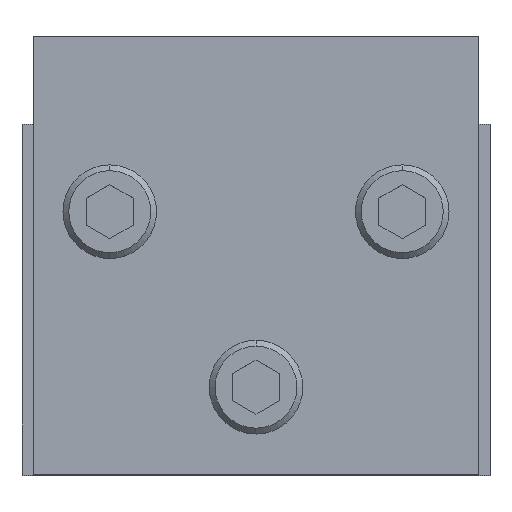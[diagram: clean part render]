
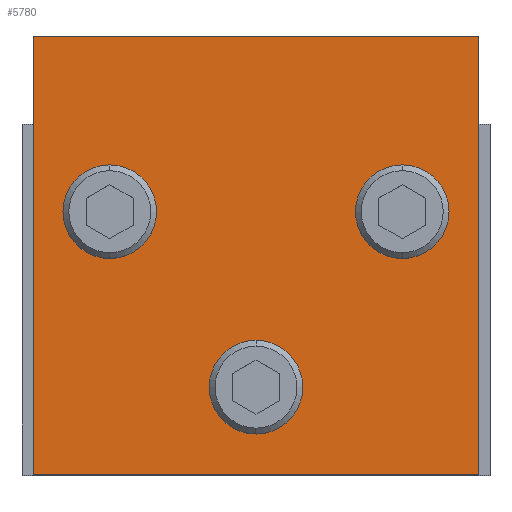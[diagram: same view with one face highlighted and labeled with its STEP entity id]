
A CAD part, top view. The second image highlights one B-rep face of the part: STEP entity #5780.
In plain terms, the highlighted planar face has unit normal (0, 0, 1).
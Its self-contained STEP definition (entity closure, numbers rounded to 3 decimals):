
#5555=VERTEX_POINT(' ',#5556);
#5556=CARTESIAN_POINT('',(38.,75.,75.));
#5557=VERTEX_POINT(' ',#5558);
#5558=CARTESIAN_POINT('',(-38.,75.,75.));
#5559=VERTEX_POINT(' ',#5560);
#5560=CARTESIAN_POINT('',(-38.,0.,75.));
#5561=VERTEX_POINT(' ',#5562);
#5562=CARTESIAN_POINT('',(38.,0.,75.));
#5563=VERTEX_POINT(' ',#5564);
#5564=CARTESIAN_POINT('',(0.,20.5,75.));
#5565=VERTEX_POINT(' ',#5566);
#5566=CARTESIAN_POINT('',(0.,9.5,75.));
#5567=VERTEX_POINT(' ',#5568);
#5568=CARTESIAN_POINT('',(-25.,50.5,75.));
#5569=VERTEX_POINT(' ',#5570);
#5570=CARTESIAN_POINT('',(-25.,39.5,75.));
#5571=VERTEX_POINT(' ',#5572);
#5572=CARTESIAN_POINT('',(25.,50.5,75.));
#5573=VERTEX_POINT(' ',#5574);
#5574=CARTESIAN_POINT('',(25.,39.5,75.));
#5595=LINE('',#5596,#5597);
#5596=CARTESIAN_POINT('',(38.,75.,75.));
#5597=VECTOR('',#5598,1.);
#5598=DIRECTION('',(-1.,0.,0.));
#5599=EDGE_CURVE(' ',#5555,#5557,#5595,.T.);
#5600=LINE('',#5601,#5602);
#5601=CARTESIAN_POINT('',(-38.,75.,75.));
#5602=VECTOR('',#5603,1.);
#5603=DIRECTION('',(0.,-1.,0.));
#5604=EDGE_CURVE(' ',#5557,#5559,#5600,.T.);
#5605=LINE('',#5606,#5607);
#5606=CARTESIAN_POINT('',(-38.,0.,75.));
#5607=VECTOR('',#5608,1.);
#5608=DIRECTION('',(1.,0.,0.));
#5609=EDGE_CURVE(' ',#5559,#5561,#5605,.T.);
#5610=LINE('',#5611,#5612);
#5611=CARTESIAN_POINT('',(38.,0.,75.));
#5612=VECTOR('',#5613,1.);
#5613=DIRECTION('',(0.,1.,0.));
#5614=EDGE_CURVE(' ',#5561,#5555,#5610,.T.);
#5615=CIRCLE('',#5616,5.5);
#5616=AXIS2_PLACEMENT_3D('',#5617,#5618,#5619);
#5617=CARTESIAN_POINT('',(0.,15.,75.));
#5618=DIRECTION('',(0.,0.,-1.));
#5619=DIRECTION('',(-1.,0.,0.));
#5620=EDGE_CURVE(' ',#5563,#5565,#5615,.T.);
#5621=CIRCLE('',#5622,5.5);
#5622=AXIS2_PLACEMENT_3D('',#5623,#5624,#5625);
#5623=CARTESIAN_POINT('',(0.,15.,75.));
#5624=DIRECTION('',(0.,0.,-1.));
#5625=DIRECTION('',(1.,0.,0.));
#5626=EDGE_CURVE(' ',#5565,#5563,#5621,.T.);
#5627=CIRCLE('',#5628,5.5);
#5628=AXIS2_PLACEMENT_3D('',#5629,#5630,#5631);
#5629=CARTESIAN_POINT('',(-25.,45.,75.));
#5630=DIRECTION('',(0.,0.,-1.));
#5631=DIRECTION('',(-1.,0.,0.));
#5632=EDGE_CURVE(' ',#5567,#5569,#5627,.T.);
#5633=CIRCLE('',#5634,5.5);
#5634=AXIS2_PLACEMENT_3D('',#5635,#5636,#5637);
#5635=CARTESIAN_POINT('',(-25.,45.,75.));
#5636=DIRECTION('',(0.,0.,-1.));
#5637=DIRECTION('',(1.,0.,0.));
#5638=EDGE_CURVE(' ',#5569,#5567,#5633,.T.);
#5639=CIRCLE('',#5640,5.5);
#5640=AXIS2_PLACEMENT_3D('',#5641,#5642,#5643);
#5641=CARTESIAN_POINT('',(25.,45.,75.));
#5642=DIRECTION('',(0.,0.,-1.));
#5643=DIRECTION('',(-1.,0.,0.));
#5644=EDGE_CURVE(' ',#5571,#5573,#5639,.T.);
#5645=CIRCLE('',#5646,5.5);
#5646=AXIS2_PLACEMENT_3D('',#5647,#5648,#5649);
#5647=CARTESIAN_POINT('',(25.,45.,75.));
#5648=DIRECTION('',(0.,0.,-1.));
#5649=DIRECTION('',(1.,0.,0.));
#5650=EDGE_CURVE(' ',#5573,#5571,#5645,.T.);
#5757=ORIENTED_EDGE('',*,*,#5599,.T.);
#5758=ORIENTED_EDGE('',*,*,#5604,.T.);
#5759=ORIENTED_EDGE('',*,*,#5609,.T.);
#5760=ORIENTED_EDGE('',*,*,#5614,.T.);
#5761=EDGE_LOOP('',(#5757,#5758,#5759,#5760));
#5762=FACE_OUTER_BOUND('',#5761,.T.);
#5763=ORIENTED_EDGE('',*,*,#5620,.T.);
#5764=ORIENTED_EDGE('',*,*,#5626,.T.);
#5765=EDGE_LOOP('',(#5763,#5764));
#5766=FACE_BOUND('',#5765,.T.);
#5767=ORIENTED_EDGE('',*,*,#5632,.T.);
#5768=ORIENTED_EDGE('',*,*,#5638,.T.);
#5769=EDGE_LOOP('',(#5767,#5768));
#5770=FACE_BOUND('',#5769,.T.);
#5771=ORIENTED_EDGE('',*,*,#5644,.T.);
#5772=ORIENTED_EDGE('',*,*,#5650,.T.);
#5773=EDGE_LOOP('',(#5771,#5772));
#5774=FACE_BOUND('',#5773,.T.);
#5775=PLANE('',#5776);
#5776=AXIS2_PLACEMENT_3D('',#5777,#5778,#5779);
#5777=CARTESIAN_POINT('',(38.,75.,75.));
#5778=DIRECTION('',(0.,0.,1.));
#5779=DIRECTION('',(1.,0.,0.));
#5780=ADVANCED_FACE('',(#5762,#5766,#5770,#5774),#5775,.T.);
